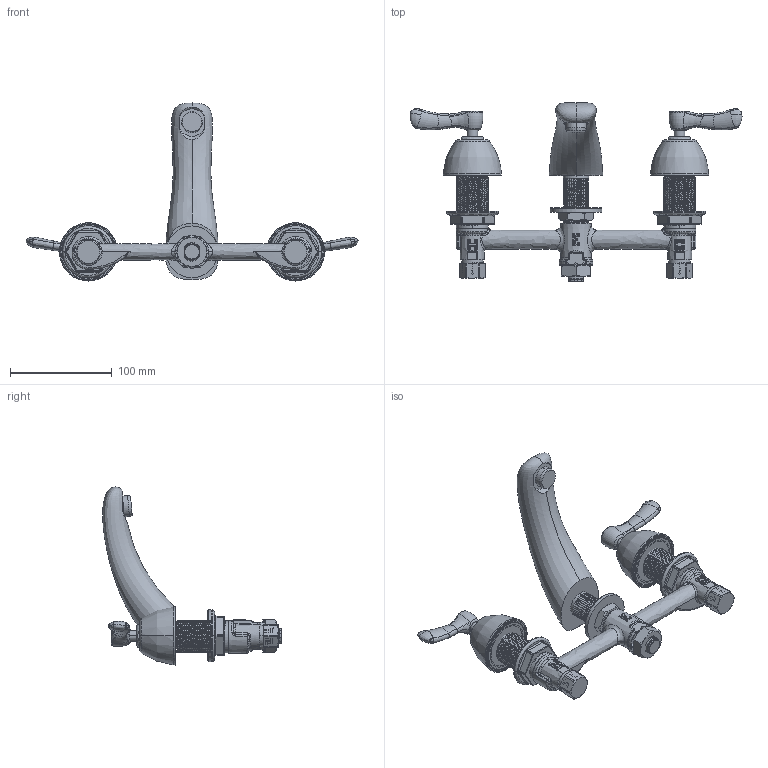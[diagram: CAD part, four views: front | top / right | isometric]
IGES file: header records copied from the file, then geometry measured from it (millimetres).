
Start section:  PTC IGES file: 404-AB.igs
Global section: file name: 404-AB.igs; native system: Creo Parametric by PTC Inc.; preprocessor: 2017260; author: usch_engrender; organization: Unknown; date: 20180531.151152; units: inch
Bounding box: 325.56 x 175.15 x 174.55 mm (x, y, z)
Surface area: 127627.5 mm2 (no closed solid volume)
Topology: 0 solids, 64 shells, 1069 faces, 2909 edges, 1884 vertices
Faces by surface type: revolution 596, bspline 473
